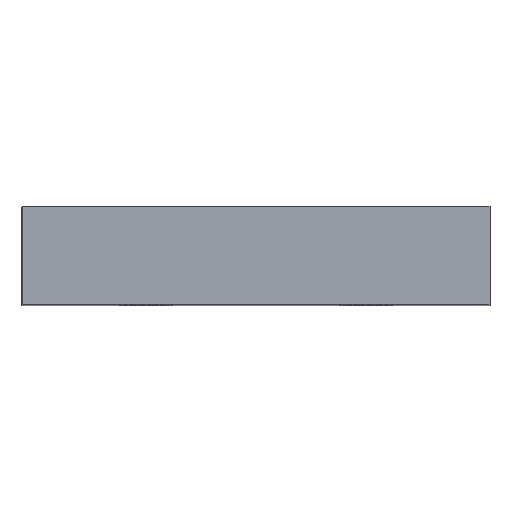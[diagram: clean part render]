
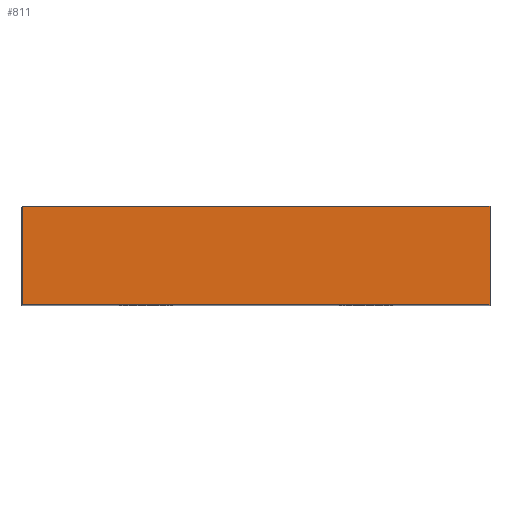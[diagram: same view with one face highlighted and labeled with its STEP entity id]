
A CAD part, top view. The second image highlights one B-rep face of the part: STEP entity #811.
In plain terms, the highlighted planar face has unit normal (0, 0, 1).
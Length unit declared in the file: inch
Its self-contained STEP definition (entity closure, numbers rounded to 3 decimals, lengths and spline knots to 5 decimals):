
#4 = PLANE ( 'NONE',  #568 ) ;
#7 = DIRECTION ( 'NONE',  ( 0., -1., 0. ) ) ;
#80 = EDGE_CURVE ( 'NONE', #885, #421, #779, .T. ) ;
#151 = LINE ( 'NONE', #597, #1153 ) ;
#154 = VECTOR ( 'NONE', #538, 39.37008 ) ;
#187 = FACE_OUTER_BOUND ( 'NONE', #269, .T. ) ;
#201 = EDGE_CURVE ( 'NONE', #1073, #712, #434, .T. ) ;
#234 = CARTESIAN_POINT ( 'NONE',  ( 1.19, 0.5, 1.815 ) ) ;
#269 = EDGE_LOOP ( 'NONE', ( #964, #1106, #360, #801 ) ) ;
#290 = DIRECTION ( 'NONE',  ( 1., 0., 0. ) ) ;
#308 = CARTESIAN_POINT ( 'NONE',  ( -1.19, 0.5, 1.815 ) ) ;
#360 = ORIENTED_EDGE ( 'NONE', *, *, #680, .F. ) ;
#371 = CARTESIAN_POINT ( 'NONE',  ( -1.19, 0., 1.815 ) ) ;
#396 = VECTOR ( 'NONE', #957, 39.37008 ) ;
#421 = VERTEX_POINT ( 'NONE', #1056 ) ;
#434 = LINE ( 'NONE', #922, #154 ) ;
#463 = LINE ( 'NONE', #371, #396 ) ;
#480 = EDGE_CURVE ( 'NONE', #712, #421, #463, .T. ) ;
#484 = CARTESIAN_POINT ( 'NONE',  ( -1.19, 0.5, 1.815 ) ) ;
#523 = DIRECTION ( 'NONE',  ( -1., 0., 0. ) ) ;
#538 = DIRECTION ( 'NONE',  ( 0., -1., 0. ) ) ;
#568 = AXIS2_PLACEMENT_3D ( 'NONE', #308, #1085, #523 ) ;
#597 = CARTESIAN_POINT ( 'NONE',  ( -1.19, 0.5, 1.815 ) ) ;
#680 = EDGE_CURVE ( 'NONE', #1073, #885, #151, .T. ) ;
#712 = VERTEX_POINT ( 'NONE', #793 ) ;
#779 = LINE ( 'NONE', #234, #1005 ) ;
#793 = CARTESIAN_POINT ( 'NONE',  ( -1.19, 0., 1.815 ) ) ;
#801 = ORIENTED_EDGE ( 'NONE', *, *, #201, .T. ) ;
#811 = ADVANCED_FACE ( 'NONE', ( #187 ), #4, .F. ) ;
#858 = CARTESIAN_POINT ( 'NONE',  ( 1.19, 0.5, 1.815 ) ) ;
#885 = VERTEX_POINT ( 'NONE', #858 ) ;
#922 = CARTESIAN_POINT ( 'NONE',  ( -1.19, 0.5, 1.815 ) ) ;
#957 = DIRECTION ( 'NONE',  ( 1., 0., 0. ) ) ;
#964 = ORIENTED_EDGE ( 'NONE', *, *, #480, .T. ) ;
#1005 = VECTOR ( 'NONE', #7, 39.37008 ) ;
#1056 = CARTESIAN_POINT ( 'NONE',  ( 1.19, 0., 1.815 ) ) ;
#1073 = VERTEX_POINT ( 'NONE', #484 ) ;
#1085 = DIRECTION ( 'NONE',  ( 0., 0., -1. ) ) ;
#1106 = ORIENTED_EDGE ( 'NONE', *, *, #80, .F. ) ;
#1153 = VECTOR ( 'NONE', #290, 39.37008 ) ;
